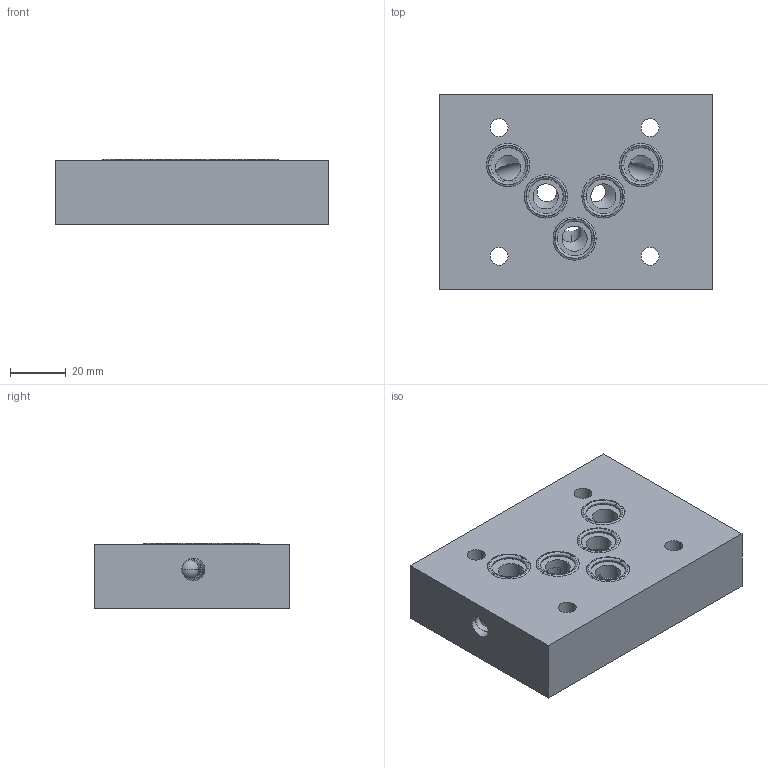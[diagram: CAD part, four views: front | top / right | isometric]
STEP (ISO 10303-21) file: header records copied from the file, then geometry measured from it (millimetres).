
FILE_DESCRIPTION((''),'2;1');
FILE_NAME('41143900_ASM','2018-10-12T',('l.soukupova'),(''),'PRO/ENGINEER BY PARAMETRIC TECHNOLOGY CORPORATION, 2015440','PRO/ENGINEER BY PARAMETRIC TECHNOLOGY CORPORATION, 2015440','');
FILE_SCHEMA(('AUTOMOTIVE_DESIGN { 1 0 10303 214 1 1 1 1 }'));
Length unit declared in the file: millimetre
Products named in the file (4): 759_5810; MB850_080E; 12_42X1_68_V90_201623; 41143900_ASM
Assembly tree (8 placements, depth 2):
  41143900_ASM
    759_5810
    MB850_080E  x2
    12_42X1_68_V90_201623  x5
Bounding box: 98 x 70 x 23.28 mm (x, y, z)
Volume: 143895.7 mm3; surface area: 31095.3 mm2
Topology: 8 solids, 12 shells, 252 faces, 629 edges, 471 vertices
Faces by surface type: cylinder 103, cone 72, torus 40, plane 33, sphere 4
Entity records: 8555 total; most frequent: CARTESIAN_POINT 1899, DIRECTION 946, ORIENTED_EDGE 740, PRESENTATION_STYLE_ASSIGNMENT 573, STYLED_ITEM 571, CURVE_STYLE 436, AXIS2_PLACEMENT_3D 380, EDGE_CURVE 378
